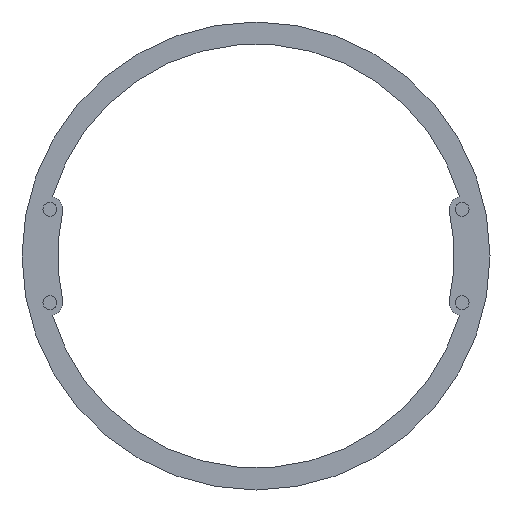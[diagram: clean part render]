
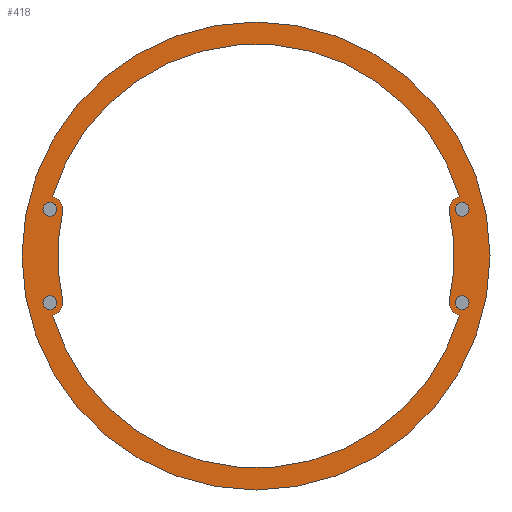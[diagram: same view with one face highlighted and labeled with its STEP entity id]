
A CAD part, front view. The second image highlights one B-rep face of the part: STEP entity #418.
In plain terms, the highlighted planar face has unit normal (0, -1, 0).
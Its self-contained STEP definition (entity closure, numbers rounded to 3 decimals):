
#33=FACE_BOUND('',#101,.T.);
#34=FACE_BOUND('',#102,.T.);
#35=FACE_BOUND('',#103,.T.);
#36=FACE_BOUND('',#104,.T.);
#37=FACE_BOUND('',#105,.T.);
#40=PLANE('',#493);
#65=FACE_OUTER_BOUND('',#100,.T.);
#100=EDGE_LOOP('',(#351));
#101=EDGE_LOOP('',(#352));
#102=EDGE_LOOP('',(#353));
#103=EDGE_LOOP('',(#354,#355,#356,#357,#358,#359,#360,#361));
#104=EDGE_LOOP('',(#362));
#105=EDGE_LOOP('',(#363));
#155=CIRCLE('',#451,3.);
#157=CIRCLE('',#454,3.);
#158=CIRCLE('',#456,5.529);
#160=CIRCLE('',#459,90.998);
#162=CIRCLE('',#462,5.529);
#164=CIRCLE('',#465,85.203);
#166=CIRCLE('',#468,5.529);
#168=CIRCLE('',#471,90.998);
#170=CIRCLE('',#474,5.529);
#172=CIRCLE('',#477,85.203);
#175=CIRCLE('',#481,3.);
#177=CIRCLE('',#484,3.);
#181=CIRCLE('',#491,100.5);
#191=VERTEX_POINT('',#668);
#193=VERTEX_POINT('',#674);
#194=VERTEX_POINT('',#678);
#195=VERTEX_POINT('',#679);
#198=VERTEX_POINT('',#687);
#200=VERTEX_POINT('',#693);
#202=VERTEX_POINT('',#699);
#204=VERTEX_POINT('',#705);
#206=VERTEX_POINT('',#711);
#208=VERTEX_POINT('',#717);
#211=VERTEX_POINT('',#728);
#213=VERTEX_POINT('',#734);
#217=VERTEX_POINT('',#747);
#228=EDGE_CURVE('',#191,#191,#155,.T.);
#231=EDGE_CURVE('',#193,#193,#157,.T.);
#232=EDGE_CURVE('',#194,#195,#158,.T.);
#236=EDGE_CURVE('',#198,#194,#160,.T.);
#239=EDGE_CURVE('',#200,#198,#162,.T.);
#242=EDGE_CURVE('',#202,#200,#164,.T.);
#245=EDGE_CURVE('',#204,#202,#166,.T.);
#248=EDGE_CURVE('',#206,#204,#168,.T.);
#251=EDGE_CURVE('',#208,#206,#170,.T.);
#254=EDGE_CURVE('',#195,#208,#172,.T.);
#258=EDGE_CURVE('',#211,#211,#175,.T.);
#261=EDGE_CURVE('',#213,#213,#177,.T.);
#267=EDGE_CURVE('',#217,#217,#181,.T.);
#351=ORIENTED_EDGE('',*,*,#267,.F.);
#352=ORIENTED_EDGE('',*,*,#228,.T.);
#353=ORIENTED_EDGE('',*,*,#231,.T.);
#354=ORIENTED_EDGE('',*,*,#254,.F.);
#355=ORIENTED_EDGE('',*,*,#232,.F.);
#356=ORIENTED_EDGE('',*,*,#236,.F.);
#357=ORIENTED_EDGE('',*,*,#239,.F.);
#358=ORIENTED_EDGE('',*,*,#242,.F.);
#359=ORIENTED_EDGE('',*,*,#245,.F.);
#360=ORIENTED_EDGE('',*,*,#248,.F.);
#361=ORIENTED_EDGE('',*,*,#251,.F.);
#362=ORIENTED_EDGE('',*,*,#258,.T.);
#363=ORIENTED_EDGE('',*,*,#261,.T.);
#418=ADVANCED_FACE('',(#65,#33,#34,#35,#36,#37),#40,.F.);
#451=AXIS2_PLACEMENT_3D('',#670,#521,#522);
#454=AXIS2_PLACEMENT_3D('',#676,#528,#529);
#456=AXIS2_PLACEMENT_3D('',#680,#532,#533);
#459=AXIS2_PLACEMENT_3D('',#688,#540,#541);
#462=AXIS2_PLACEMENT_3D('',#694,#547,#548);
#465=AXIS2_PLACEMENT_3D('',#700,#554,#555);
#468=AXIS2_PLACEMENT_3D('',#706,#561,#562);
#471=AXIS2_PLACEMENT_3D('',#712,#568,#569);
#474=AXIS2_PLACEMENT_3D('',#718,#575,#576);
#477=AXIS2_PLACEMENT_3D('',#723,#582,#583);
#481=AXIS2_PLACEMENT_3D('',#730,#591,#592);
#484=AXIS2_PLACEMENT_3D('',#736,#598,#599);
#491=AXIS2_PLACEMENT_3D('',#749,#614,#615);
#493=AXIS2_PLACEMENT_3D('',#751,#618,#619);
#521=DIRECTION('center_axis',(0.,1.,0.));
#522=DIRECTION('ref_axis',(1.,0.,0.));
#528=DIRECTION('center_axis',(0.,1.,0.));
#529=DIRECTION('ref_axis',(1.,0.,0.));
#532=DIRECTION('center_axis',(0.,1.,0.));
#533=DIRECTION('ref_axis',(-0.203,0.,-0.979));
#540=DIRECTION('center_axis',(0.,-1.,0.));
#541=DIRECTION('ref_axis',(0.96,0.,-0.279));
#547=DIRECTION('center_axis',(0.,1.,0.));
#548=DIRECTION('ref_axis',(0.975,0.,0.22));
#554=DIRECTION('center_axis',(0.,-1.,0.));
#555=DIRECTION('ref_axis',(-0.975,0.,-0.22));
#561=DIRECTION('center_axis',(0.,1.,0.));
#562=DIRECTION('ref_axis',(0.203,0.,0.979));
#568=DIRECTION('center_axis',(0.,-1.,0.));
#569=DIRECTION('ref_axis',(-0.96,0.,0.279));
#575=DIRECTION('center_axis',(0.,1.,0.));
#576=DIRECTION('ref_axis',(-0.975,0.,-0.22));
#582=DIRECTION('center_axis',(0.,-1.,0.));
#583=DIRECTION('ref_axis',(0.975,0.,0.22));
#591=DIRECTION('center_axis',(0.,1.,0.));
#592=DIRECTION('ref_axis',(1.,0.,0.));
#598=DIRECTION('center_axis',(0.,1.,0.));
#599=DIRECTION('ref_axis',(1.,0.,0.));
#614=DIRECTION('center_axis',(0.,1.,0.));
#615=DIRECTION('ref_axis',(1.,0.,0.));
#618=DIRECTION('center_axis',(0.,1.,0.));
#619=DIRECTION('ref_axis',(1.,0.,0.));
#668=CARTESIAN_POINT('',(85.5,0.,20.));
#670=CARTESIAN_POINT('Origin',(88.5,0.,20.));
#674=CARTESIAN_POINT('',(85.5,0.,-20.));
#676=CARTESIAN_POINT('Origin',(88.5,0.,-20.));
#678=CARTESIAN_POINT('',(87.378,0.,-25.414));
#679=CARTESIAN_POINT('',(83.107,0.,-18.781));
#680=CARTESIAN_POINT('Origin',(88.5,0.,-20.));
#687=CARTESIAN_POINT('',(-87.378,0.,-25.414));
#688=CARTESIAN_POINT('Origin',(0.,0.,0.));
#693=CARTESIAN_POINT('',(-83.107,0.,-18.781));
#694=CARTESIAN_POINT('Origin',(-88.5,0.,-20.));
#699=CARTESIAN_POINT('',(-83.107,0.,18.781));
#700=CARTESIAN_POINT('Origin',(0.,0.,0.));
#705=CARTESIAN_POINT('',(-87.378,0.,25.414));
#706=CARTESIAN_POINT('Origin',(-88.5,0.,20.));
#711=CARTESIAN_POINT('',(87.378,0.,25.414));
#712=CARTESIAN_POINT('Origin',(0.,0.,0.));
#717=CARTESIAN_POINT('',(83.107,0.,18.781));
#718=CARTESIAN_POINT('Origin',(88.5,0.,20.));
#723=CARTESIAN_POINT('Origin',(0.,0.,0.));
#728=CARTESIAN_POINT('',(-91.5,0.,-20.));
#730=CARTESIAN_POINT('Origin',(-88.5,0.,-20.));
#734=CARTESIAN_POINT('',(-91.5,0.,20.));
#736=CARTESIAN_POINT('Origin',(-88.5,0.,20.));
#747=CARTESIAN_POINT('',(-100.5,0.,0.));
#749=CARTESIAN_POINT('Origin',(0.,0.,0.));
#751=CARTESIAN_POINT('Origin',(0.,0.,0.));
